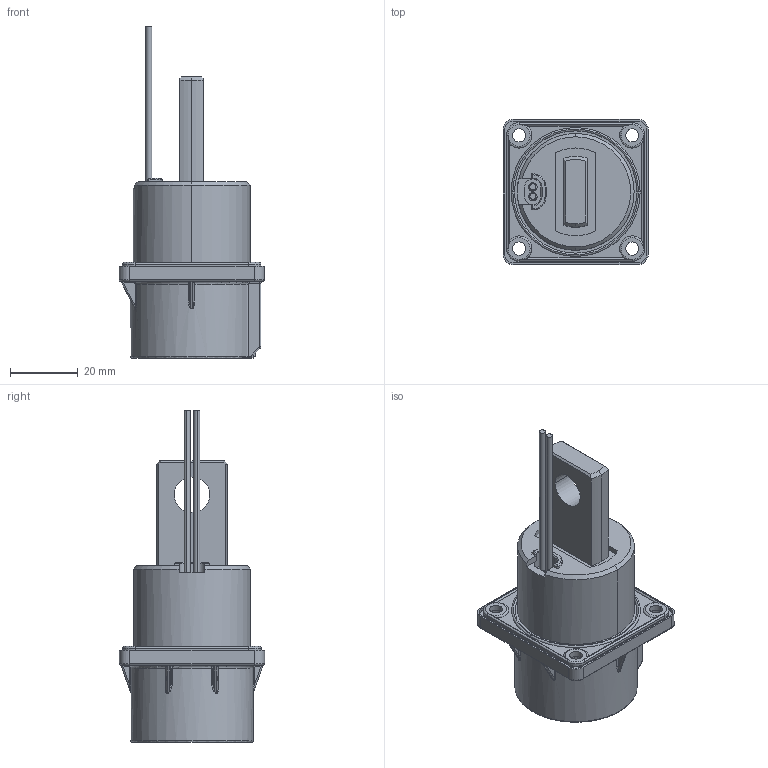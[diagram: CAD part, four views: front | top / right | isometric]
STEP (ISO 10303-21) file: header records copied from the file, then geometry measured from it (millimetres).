
FILE_DESCRIPTION (( 'STEP AP214' ), '1' );
FILE_NAME ('PL00X-501-10D10.STEP', '2024-10-17T06:47:34', ( '' ), ( '' ), 'SwSTEP 2.0', 'SolidWorks 2018', '' );
FILE_SCHEMA (( 'AUTOMOTIVE_DESIGN' ));
Length unit declared in the file: millimetre
Products named in the file (1): PL00X-501-10D10
Bounding box: 43.2 x 43 x 98.3 mm (x, y, z)
Volume: 31294 mm3; surface area: 23311.4 mm2
Topology: 2 solids, 5 shells, 661 faces, 1659 edges, 1026 vertices
Faces by surface type: plane 282, cylinder 185, torus 72, bspline 66, cone 56
Entity records: 29523 total; most frequent: CARTESIAN_POINT 6771, ORIENTED_EDGE 3298, DIRECTION 3167, EDGE_CURVE 1649, AXIS2_PLACEMENT_3D 1172, VERTEX_POINT 1026, LINE 823, VECTOR 823
